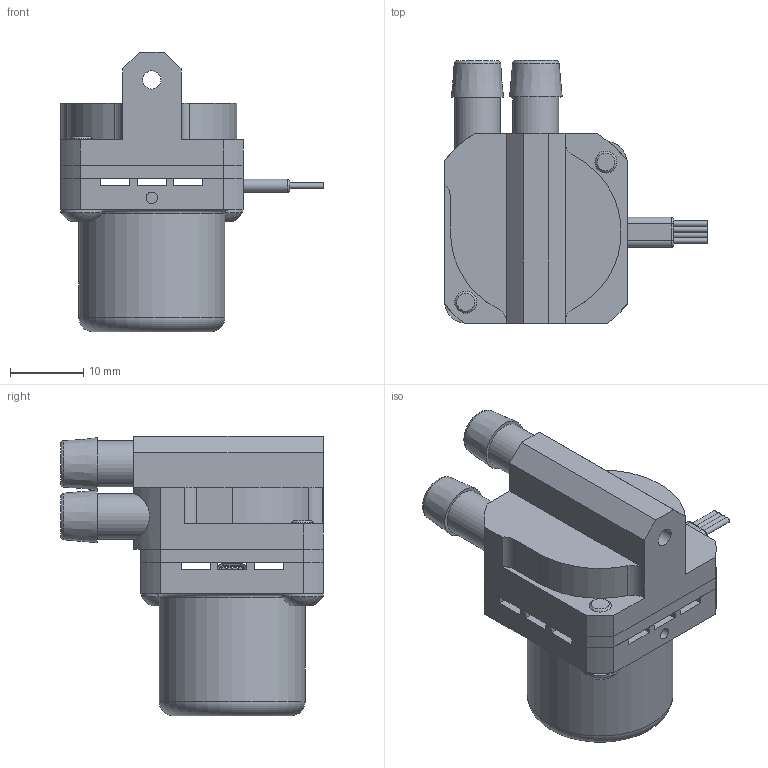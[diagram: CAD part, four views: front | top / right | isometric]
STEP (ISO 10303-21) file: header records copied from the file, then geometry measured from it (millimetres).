
FILE_DESCRIPTION (( 'STEP AP214' ), '1' );
FILE_NAME ('M400S REV1.STEP', '2018-06-20T13:51:37', ( '' ), ( '' ), 'SwSTEP 2.0', 'SolidWorks 2016', '' );
FILE_SCHEMA (( 'AUTOMOTIVE_DESIGN' ));
Length unit declared in the file: millimetre
Products named in the file (1): M400S REV1
Bounding box: 36 x 36 x 38.3 mm (x, y, z)
Surface area: 6746.8 mm2 (no closed solid volume)
Topology: 0 solids, 11 shells, 145 faces, 429 edges, 290 vertices
Faces by surface type: plane 88, cylinder 41, cone 8, torus 6, sphere 2
Full cylindrical faces by diameter (mm): 1.6 x1, 2.5 x1, 3 x2, 5.3 x2, 5.7 x2, 6.3 x2, 6.35 x2, 20 x1
Entity records: 6293 total; most frequent: CARTESIAN_POINT 901, DIRECTION 814, ORIENTED_EDGE 661, EDGE_CURVE 396, VERTEX_POINT 282, AXIS2_PLACEMENT_3D 275, LINE 264, VECTOR 264
